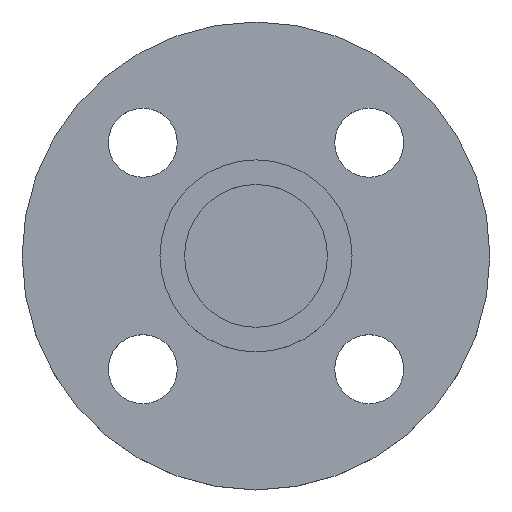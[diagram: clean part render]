
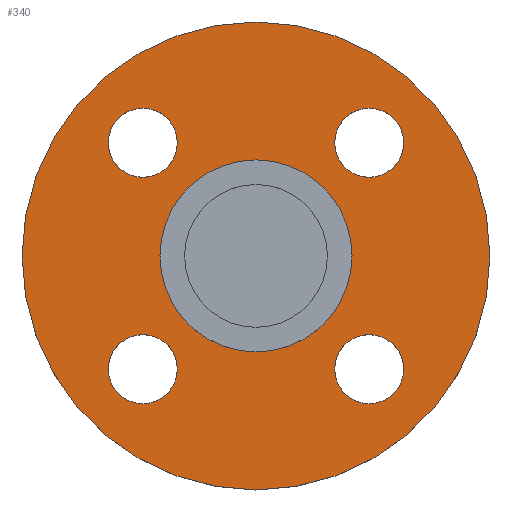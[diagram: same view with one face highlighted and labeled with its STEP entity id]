
A CAD part, top view. The second image highlights one B-rep face of the part: STEP entity #340.
In plain terms, the highlighted planar face has unit normal (0, 0, 1).
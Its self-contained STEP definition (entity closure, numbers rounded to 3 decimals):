
#14 = AXIS2_PLACEMENT_3D ( 'NONE', #357, #362, #364 ) ;
#20 = CIRCLE ( 'NONE', #512, 19.5 ) ;
#26 = CIRCLE ( 'NONE', #399, 19.5 ) ;
#40 = EDGE_CURVE ( 'NONE', #727, #629, #26, .T. ) ;
#93 = CARTESIAN_POINT ( 'NONE',  ( 15.981, 22.981, -4.5 ) ) ;
#96 = CARTESIAN_POINT ( 'NONE',  ( 19.5, 0., -4.5 ) ) ;
#97 = CARTESIAN_POINT ( 'NONE',  ( -29.981, 22.981, -4.5 ) ) ;
#117 = CARTESIAN_POINT ( 'NONE',  ( -15.981, 22.981, -4.5 ) ) ;
#129 = EDGE_CURVE ( 'NONE', #602, #528, #716, .T. ) ;
#132 = DIRECTION ( 'NONE',  ( 1., 0., 0. ) ) ;
#134 = DIRECTION ( 'NONE',  ( 0., 0., -1. ) ) ;
#136 = CIRCLE ( 'NONE', #296, 7. ) ;
#139 = CARTESIAN_POINT ( 'NONE',  ( 22.981, -22.981, -4.5 ) ) ;
#143 = EDGE_CURVE ( 'NONE', #521, #608, #170, .T. ) ;
#147 = CARTESIAN_POINT ( 'NONE',  ( 29.981, 22.981, -4.5 ) ) ;
#151 = AXIS2_PLACEMENT_3D ( 'NONE', #791, #792, #794 ) ;
#168 = CARTESIAN_POINT ( 'NONE',  ( -19.5, 0., -4.5 ) ) ;
#170 = CIRCLE ( 'NONE', #151, 47.5 ) ;
#181 = CARTESIAN_POINT ( 'NONE',  ( 29.981, -22.981, -4.5 ) ) ;
#183 = CARTESIAN_POINT ( 'NONE',  ( 47.5, 0., -4.5 ) ) ;
#187 = CARTESIAN_POINT ( 'NONE',  ( -15.981, -22.981, -4.5 ) ) ;
#191 = EDGE_CURVE ( 'NONE', #710, #726, #292, .T. ) ;
#193 = CIRCLE ( 'NONE', #775, 7. ) ;
#195 = DIRECTION ( 'NONE',  ( 1., 0., 0. ) ) ;
#196 = DIRECTION ( 'NONE',  ( 0., 0., -1. ) ) ;
#199 = CARTESIAN_POINT ( 'NONE',  ( -22.981, -22.981, -4.5 ) ) ;
#203 = AXIS2_PLACEMENT_3D ( 'NONE', #413, #414, #415 ) ;
#236 = CARTESIAN_POINT ( 'NONE',  ( 0., 0., -4.5 ) ) ;
#239 = DIRECTION ( 'NONE',  ( 0., 0., -1. ) ) ;
#241 = DIRECTION ( 'NONE',  ( -1., 0., 0. ) ) ;
#251 = CARTESIAN_POINT ( 'NONE',  ( -47.5, 0., -4.5 ) ) ;
#264 = AXIS2_PLACEMENT_3D ( 'NONE', #236, #239, #241 ) ;
#267 = DIRECTION ( 'NONE',  ( 1., 0., 0. ) ) ;
#276 = CARTESIAN_POINT ( 'NONE',  ( 0., 0., -4.5 ) ) ;
#277 = DIRECTION ( 'NONE',  ( 0., 0., -1. ) ) ;
#278 = DIRECTION ( 'NONE',  ( -1., 0., 0. ) ) ;
#283 = DIRECTION ( 'NONE',  ( 0., 0., -1. ) ) ;
#286 = EDGE_CURVE ( 'NONE', #608, #521, #755, .T. ) ;
#292 = CIRCLE ( 'NONE', #478, 7. ) ;
#294 = CARTESIAN_POINT ( 'NONE',  ( -29.981, -22.981, -4.5 ) ) ;
#296 = AXIS2_PLACEMENT_3D ( 'NONE', #439, #440, #441 ) ;
#302 = CARTESIAN_POINT ( 'NONE',  ( 22.981, 22.981, -4.5 ) ) ;
#318 = CARTESIAN_POINT ( 'NONE',  ( 15.981, -22.981, -4.5 ) ) ;
#326 = EDGE_CURVE ( 'NONE', #629, #727, #20, .T. ) ;
#334 = CIRCLE ( 'NONE', #493, 7. ) ;
#338 = FACE_BOUND ( 'NONE', #501, .T. ) ;
#339 = FACE_BOUND ( 'NONE', #654, .T. ) ;
#340 = ADVANCED_FACE ( 'NONE', ( #338, #339, #341, #343, #346, #353 ), #354, .T. ) ;
#341 = FACE_BOUND ( 'NONE', #711, .T. ) ;
#343 = FACE_BOUND ( 'NONE', #573, .T. ) ;
#346 = FACE_BOUND ( 'NONE', #613, .T. ) ;
#353 = FACE_OUTER_BOUND ( 'NONE', #667, .T. ) ;
#354 = PLANE ( 'NONE',  #14 ) ;
#357 = CARTESIAN_POINT ( 'NONE',  ( 19.5, 0., -4.5 ) ) ;
#362 = DIRECTION ( 'NONE',  ( 0., 0., 1. ) ) ;
#364 = DIRECTION ( 'NONE',  ( 1., 0., 0. ) ) ;
#395 = AXIS2_PLACEMENT_3D ( 'NONE', #199, #196, #195 ) ;
#399 = AXIS2_PLACEMENT_3D ( 'NONE', #541, #760, #761 ) ;
#411 = CIRCLE ( 'NONE', #395, 7. ) ;
#413 = CARTESIAN_POINT ( 'NONE',  ( -22.981, 22.981, -4.5 ) ) ;
#414 = DIRECTION ( 'NONE',  ( 0., 0., -1. ) ) ;
#415 = DIRECTION ( 'NONE',  ( 1., 0., 0. ) ) ;
#416 = CARTESIAN_POINT ( 'NONE',  ( 22.981, 22.981, -4.5 ) ) ;
#417 = DIRECTION ( 'NONE',  ( 0., 0., -1. ) ) ;
#418 = DIRECTION ( 'NONE',  ( 1., 0., 0. ) ) ;
#424 = AXIS2_PLACEMENT_3D ( 'NONE', #785, #786, #787 ) ;
#437 = CIRCLE ( 'NONE', #203, 7. ) ;
#439 = CARTESIAN_POINT ( 'NONE',  ( 22.981, -22.981, -4.5 ) ) ;
#440 = DIRECTION ( 'NONE',  ( 0., 0., -1. ) ) ;
#441 = DIRECTION ( 'NONE',  ( 1., 0., 0. ) ) ;
#443 = EDGE_CURVE ( 'NONE', #726, #710, #437, .T. ) ;
#449 = EDGE_CURVE ( 'NONE', #679, #730, #334, .T. ) ;
#465 = AXIS2_PLACEMENT_3D ( 'NONE', #139, #134, #132 ) ;
#467 = CIRCLE ( 'NONE', #465, 7. ) ;
#471 = EDGE_CURVE ( 'NONE', #730, #679, #193, .T. ) ;
#478 = AXIS2_PLACEMENT_3D ( 'NONE', #807, #812, #813 ) ;
#490 = EDGE_CURVE ( 'NONE', #610, #518, #136, .T. ) ;
#493 = AXIS2_PLACEMENT_3D ( 'NONE', #416, #417, #418 ) ;
#501 = EDGE_LOOP ( 'NONE', ( #601, #603 ) ) ;
#512 = AXIS2_PLACEMENT_3D ( 'NONE', #276, #277, #278 ) ;
#518 = VERTEX_POINT ( 'NONE', #318 ) ;
#521 = VERTEX_POINT ( 'NONE', #251 ) ;
#528 = VERTEX_POINT ( 'NONE', #294 ) ;
#541 = CARTESIAN_POINT ( 'NONE',  ( 0., 0., -4.5 ) ) ;
#573 = EDGE_LOOP ( 'NONE', ( #612, #615 ) ) ;
#591 = EDGE_CURVE ( 'NONE', #528, #602, #411, .T. ) ;
#601 = ORIENTED_EDGE ( 'NONE', *, *, #490, .T. ) ;
#602 = VERTEX_POINT ( 'NONE', #187 ) ;
#603 = ORIENTED_EDGE ( 'NONE', *, *, #691, .T. ) ;
#604 = ORIENTED_EDGE ( 'NONE', *, *, #129, .T. ) ;
#606 = ORIENTED_EDGE ( 'NONE', *, *, #591, .T. ) ;
#607 = ORIENTED_EDGE ( 'NONE', *, *, #191, .T. ) ;
#608 = VERTEX_POINT ( 'NONE', #183 ) ;
#609 = ORIENTED_EDGE ( 'NONE', *, *, #443, .T. ) ;
#610 = VERTEX_POINT ( 'NONE', #181 ) ;
#612 = ORIENTED_EDGE ( 'NONE', *, *, #449, .T. ) ;
#613 = EDGE_LOOP ( 'NONE', ( #616, #621 ) ) ;
#615 = ORIENTED_EDGE ( 'NONE', *, *, #471, .T. ) ;
#616 = ORIENTED_EDGE ( 'NONE', *, *, #326, .T. ) ;
#621 = ORIENTED_EDGE ( 'NONE', *, *, #40, .T. ) ;
#626 = ORIENTED_EDGE ( 'NONE', *, *, #286, .F. ) ;
#628 = ORIENTED_EDGE ( 'NONE', *, *, #143, .F. ) ;
#629 = VERTEX_POINT ( 'NONE', #168 ) ;
#654 = EDGE_LOOP ( 'NONE', ( #604, #606 ) ) ;
#667 = EDGE_LOOP ( 'NONE', ( #626, #628 ) ) ;
#679 = VERTEX_POINT ( 'NONE', #147 ) ;
#691 = EDGE_CURVE ( 'NONE', #518, #610, #467, .T. ) ;
#710 = VERTEX_POINT ( 'NONE', #117 ) ;
#711 = EDGE_LOOP ( 'NONE', ( #607, #609 ) ) ;
#716 = CIRCLE ( 'NONE', #424, 7. ) ;
#726 = VERTEX_POINT ( 'NONE', #97 ) ;
#727 = VERTEX_POINT ( 'NONE', #96 ) ;
#730 = VERTEX_POINT ( 'NONE', #93 ) ;
#755 = CIRCLE ( 'NONE', #264, 47.5 ) ;
#760 = DIRECTION ( 'NONE',  ( 0., 0., -1. ) ) ;
#761 = DIRECTION ( 'NONE',  ( -1., 0., 0. ) ) ;
#775 = AXIS2_PLACEMENT_3D ( 'NONE', #302, #283, #267 ) ;
#785 = CARTESIAN_POINT ( 'NONE',  ( -22.981, -22.981, -4.5 ) ) ;
#786 = DIRECTION ( 'NONE',  ( 0., 0., -1. ) ) ;
#787 = DIRECTION ( 'NONE',  ( 1., 0., 0. ) ) ;
#791 = CARTESIAN_POINT ( 'NONE',  ( 0., 0., -4.5 ) ) ;
#792 = DIRECTION ( 'NONE',  ( 0., 0., -1. ) ) ;
#794 = DIRECTION ( 'NONE',  ( -1., 0., 0. ) ) ;
#807 = CARTESIAN_POINT ( 'NONE',  ( -22.981, 22.981, -4.5 ) ) ;
#812 = DIRECTION ( 'NONE',  ( 0., 0., -1. ) ) ;
#813 = DIRECTION ( 'NONE',  ( 1., 0., 0. ) ) ;
